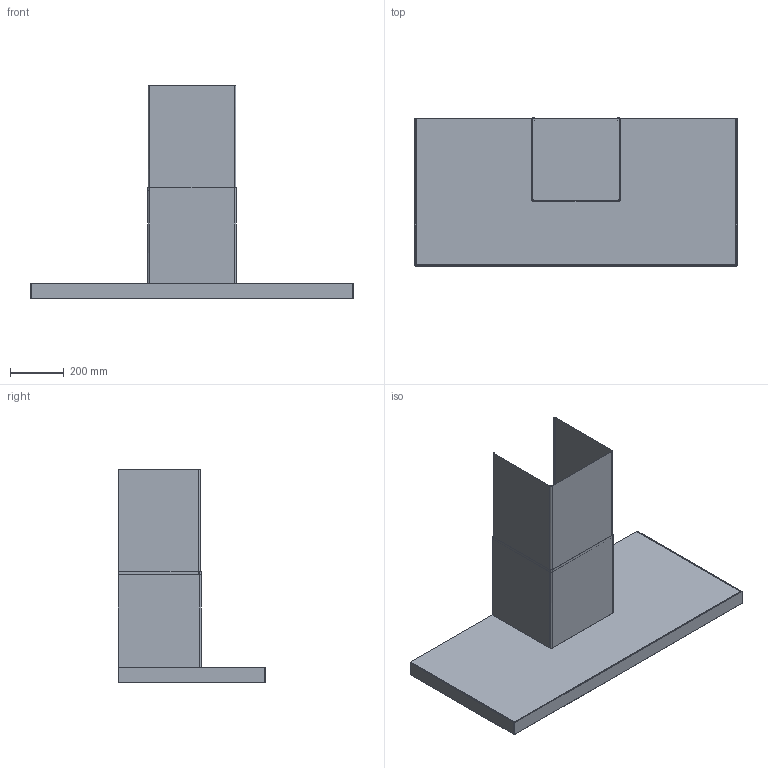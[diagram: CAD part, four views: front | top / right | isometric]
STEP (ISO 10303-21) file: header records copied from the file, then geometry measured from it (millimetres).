
FILE_DESCRIPTION(/* description */ (''),/* implementation_level */ '2;1');
FILE_NAME(/* name */ 'X6202300002-A',/* time_stamp */ '2018-02-20T17:51:37+01:00',/* author */ (''),/* organization */ (''),/* preprocessor_version */ 'ST-DEVELOPER v15',/* originating_system */ '',/* authorisation */ '');
FILE_SCHEMA (('AUTOMOTIVE_DESIGN'));
Length unit declared in the file: millimetre
Products named in the file (1): Document
Bounding box: 1198 x 550 x 791.54 mm (x, y, z)
Volume: 35095352.8 mm3; surface area: 4252850.6 mm2
Topology: 11 solids, 11 shells, 209 faces, 492 edges, 304 vertices
Faces by surface type: plane 125, bspline 84
Entity records: 6483 total; most frequent: CARTESIAN_POINT 3143, ORIENTED_EDGE 984, EDGE_CURVE 492, B_SPLINE_CURVE_WITH_KNOTS 404, VERTEX_POINT 304, EDGE_LOOP 210, ADVANCED_FACE 209, FACE_OUTER_BOUND 209
